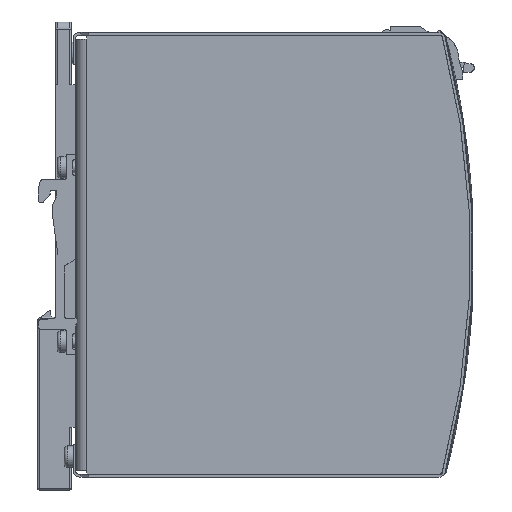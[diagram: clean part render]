
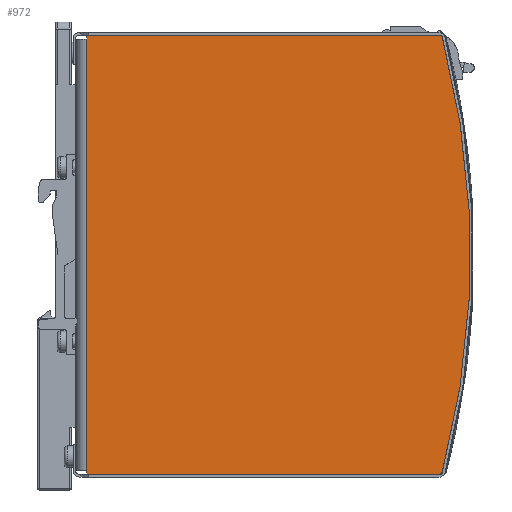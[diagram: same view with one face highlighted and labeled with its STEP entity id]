
A CAD part, front view. The second image highlights one B-rep face of the part: STEP entity #972.
In plain terms, the highlighted planar face has unit normal (0, -1, 0).
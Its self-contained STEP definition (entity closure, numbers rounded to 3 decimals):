
#396=CARTESIAN_POINT('',(60.15,-24.5,3.));
#397=VERTEX_POINT('',#396);
#405=CARTESIAN_POINT('',(-60.15,-24.5,3.));
#406=VERTEX_POINT('',#405);
#407=CARTESIAN_POINT('',(60.15,-24.5,3.));
#408=DIRECTION('',(-1.0,0.0,0.0));
#409=VECTOR('',#408,120.3);
#410=LINE('',#407,#409);
#411=EDGE_CURVE('',#397,#406,#410,.T.);
#816=CARTESIAN_POINT('',(-61.15,-24.5,102.079));
#817=VERTEX_POINT('',#816);
#834=CARTESIAN_POINT('',(-61.15,-24.5,3.));
#835=VERTEX_POINT('',#834);
#842=CARTESIAN_POINT('',(-61.15,-24.5,102.079));
#843=DIRECTION('',(0.0,0.0,-1.0));
#844=VECTOR('',#843,99.079);
#845=LINE('',#842,#844);
#846=EDGE_CURVE('',#817,#835,#845,.T.);
#858=CARTESIAN_POINT('',(61.15,-24.5,102.079));
#859=VERTEX_POINT('',#858);
#866=CARTESIAN_POINT('',(61.15,-24.5,3.));
#867=VERTEX_POINT('',#866);
#868=CARTESIAN_POINT('',(61.15,-24.5,3.));
#869=DIRECTION('',(0.0,0.0,1.0));
#870=VECTOR('',#869,99.079);
#871=LINE('',#868,#870);
#872=EDGE_CURVE('',#867,#859,#871,.T.);
#896=CARTESIAN_POINT('',(0.,-24.5,-130.));
#897=DIRECTION('',(0.0,-1.0,0.0));
#898=DIRECTION('',(0.0,0.0,-1.0));
#899=AXIS2_PLACEMENT_3D('',#896,#897,#898);
#900=CIRCLE('',#899,240.);
#901=EDGE_CURVE('',#859,#817,#900,.T.);
#921=CARTESIAN_POINT('',(61.15,-24.5,3.));
#922=DIRECTION('',(-1.0,0.0,0.0));
#923=VECTOR('',#922,1.0);
#924=LINE('',#921,#923);
#925=EDGE_CURVE('',#867,#397,#924,.T.);
#950=CARTESIAN_POINT('',(-61.15,-24.5,3.));
#951=DIRECTION('',(1.0,0.0,0.0));
#952=VECTOR('',#951,1.0);
#953=LINE('',#950,#952);
#954=EDGE_CURVE('',#835,#406,#953,.T.);
#959=CARTESIAN_POINT('',(61.15,-24.5,1.5));
#960=DIRECTION('',(0.0,1.0,0.0));
#961=DIRECTION('',(0.0,0.0,1.0));
#962=AXIS2_PLACEMENT_3D('',#959,#960,#961);
#963=PLANE('',#962);
#964=ORIENTED_EDGE('',*,*,#872,.T.);
#965=ORIENTED_EDGE('',*,*,#901,.T.);
#966=ORIENTED_EDGE('',*,*,#846,.T.);
#967=ORIENTED_EDGE('',*,*,#954,.T.);
#968=ORIENTED_EDGE('',*,*,#411,.F.);
#969=ORIENTED_EDGE('',*,*,#925,.F.);
#970=EDGE_LOOP('',(#964,#965,#966,#967,#968,#969));
#971=FACE_OUTER_BOUND('',#970,.T.);
#972=ADVANCED_FACE('',(#971),#963,.F.);
